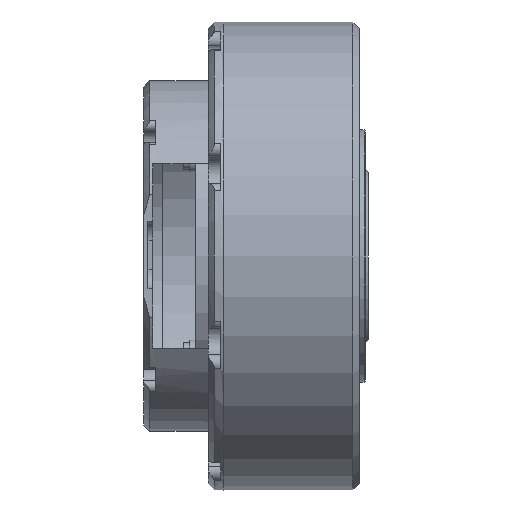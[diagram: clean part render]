
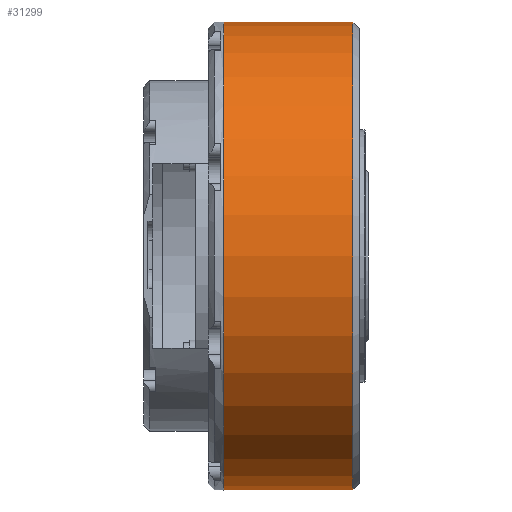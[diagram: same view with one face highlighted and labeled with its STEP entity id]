
A CAD part, front view. The second image highlights one B-rep face of the part: STEP entity #31299.
In plain terms, the highlighted cylindrical face has radius 38 mm (diameter 76 mm), a partial arc.
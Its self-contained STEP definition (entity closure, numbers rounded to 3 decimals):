
#1401 = VECTOR ( 'NONE', #19932, 1000. ) ;
#1520 = LINE ( 'NONE', #18330, #3169 ) ;
#1786 = CARTESIAN_POINT ( 'NONE',  ( 1133.263, 585.439, -38. ) ) ;
#2789 = EDGE_CURVE ( 'NONE', #2848, #4197, #15165, .T. ) ;
#2848 = VERTEX_POINT ( 'NONE', #17425 ) ;
#3169 = VECTOR ( 'NONE', #13245, 1000. ) ;
#3177 = CARTESIAN_POINT ( 'NONE',  ( 1133.263, 585.439, 0. ) ) ;
#3244 = ORIENTED_EDGE ( 'NONE', *, *, #2789, .F. ) ;
#3378 = EDGE_CURVE ( 'NONE', #15181, #11252, #10213, .T. ) ;
#4197 = VERTEX_POINT ( 'NONE', #24985 ) ;
#5111 = AXIS2_PLACEMENT_3D ( 'NONE', #25237, #30457, #15258 ) ;
#6213 = ORIENTED_EDGE ( 'NONE', *, *, #3378, .T. ) ;
#6689 = LINE ( 'NONE', #1786, #1401 ) ;
#7650 = DIRECTION ( 'NONE',  ( 1., 0., 0. ) ) ;
#8942 = EDGE_LOOP ( 'NONE', ( #28468, #3244, #20237, #6213 ) ) ;
#10213 = CIRCLE ( 'NONE', #29889, 38. ) ;
#10340 = CARTESIAN_POINT ( 'NONE',  ( 1122.763, 585.439, -38. ) ) ;
#11252 = VERTEX_POINT ( 'NONE', #10340 ) ;
#13245 = DIRECTION ( 'NONE',  ( -1., 0., 0. ) ) ;
#15112 = DIRECTION ( 'NONE',  ( 0., 0., 1. ) ) ;
#15157 = CARTESIAN_POINT ( 'NONE',  ( 1122.763, 585.439, 38. ) ) ;
#15165 = CIRCLE ( 'NONE', #5111, 38. ) ;
#15181 = VERTEX_POINT ( 'NONE', #15157 ) ;
#15258 = DIRECTION ( 'NONE',  ( 0., 0., 1. ) ) ;
#16262 = CYLINDRICAL_SURFACE ( 'NONE', #25542, 38. ) ;
#16639 = EDGE_CURVE ( 'NONE', #2848, #15181, #1520, .T. ) ;
#17425 = CARTESIAN_POINT ( 'NONE',  ( 1143.763, 585.439, 38. ) ) ;
#18330 = CARTESIAN_POINT ( 'NONE',  ( 1133.263, 585.439, 38. ) ) ;
#19932 = DIRECTION ( 'NONE',  ( -1., 0., 0. ) ) ;
#20237 = ORIENTED_EDGE ( 'NONE', *, *, #16639, .T. ) ;
#21851 = DIRECTION ( 'NONE',  ( -1., 0., 0. ) ) ;
#22922 = CARTESIAN_POINT ( 'NONE',  ( 1122.763, 585.439, 0. ) ) ;
#24985 = CARTESIAN_POINT ( 'NONE',  ( 1143.763, 585.439, -38. ) ) ;
#25237 = CARTESIAN_POINT ( 'NONE',  ( 1143.763, 585.439, 0. ) ) ;
#25542 = AXIS2_PLACEMENT_3D ( 'NONE', #3177, #21851, #27294 ) ;
#27023 = EDGE_CURVE ( 'NONE', #4197, #11252, #6689, .T. ) ;
#27294 = DIRECTION ( 'NONE',  ( 0., 0., 1. ) ) ;
#28468 = ORIENTED_EDGE ( 'NONE', *, *, #27023, .F. ) ;
#29889 = AXIS2_PLACEMENT_3D ( 'NONE', #22922, #7650, #15112 ) ;
#30457 = DIRECTION ( 'NONE',  ( 1., 0., 0. ) ) ;
#31299 = ADVANCED_FACE ( 'NONE', ( #32457 ), #16262, .T. ) ;
#32457 = FACE_OUTER_BOUND ( 'NONE', #8942, .T. ) ;
